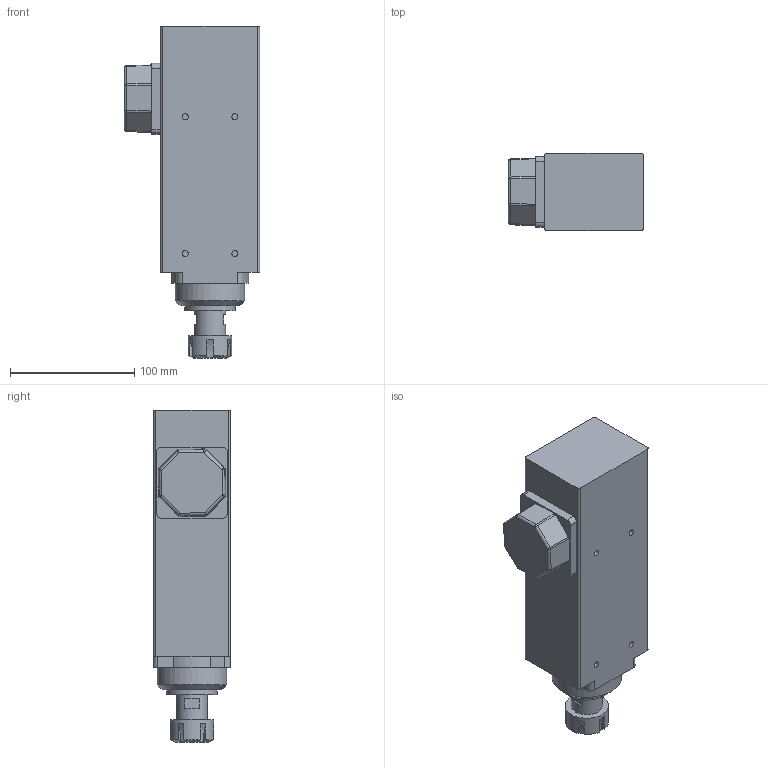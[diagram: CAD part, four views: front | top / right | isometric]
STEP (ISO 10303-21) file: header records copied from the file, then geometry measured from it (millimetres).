
FILE_DESCRIPTION(/* description */ ('Alibre Inc.'),/* implementation_level */ '2;1');
FILE_NAME(/* name */ 'export0',/* time_stamp */ '2015-08-11T09:11:19+02:00',/* author */ (''),/* organization */ (''),/* preprocessor_version */ 'ST-DEVELOPER v14',/* originating_system */ 'Alibre',/* authorisation */ '');
FILE_SCHEMA (('AUTOMOTIVE_DESIGN'));
Length unit declared in the file: centimetre
Bounding box: 109 x 62 x 267 mm (x, y, z)
Volume: 1159363.9 mm3; surface area: 81788.6 mm2
Topology: 1 solids, 1 shells, 115 faces, 268 edges, 170 vertices
Faces by surface type: plane 56, cylinder 48, sphere 8, cone 3
Full cylindrical faces by diameter (mm): 4.917 x8, 25 x1, 35 x1, 41 x1, 56 x1
Entity records: 3114 total; most frequent: CARTESIAN_POINT 624, ORIENTED_EDGE 494, DIRECTION 489, EDGE_CURVE 247, AXIS2_PLACEMENT_3D 215, VERTEX_POINT 165, EDGE_LOOP 144, FACE_BOUND 144
